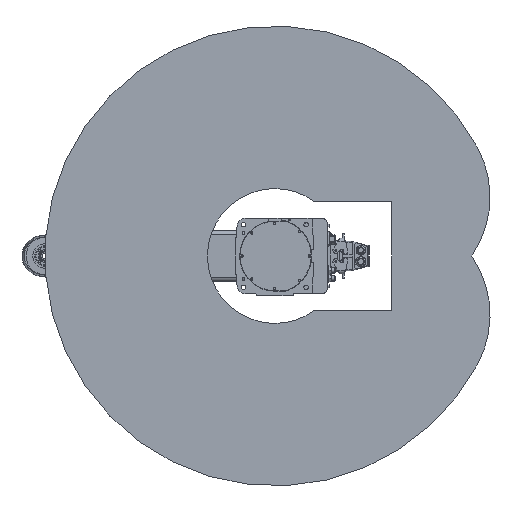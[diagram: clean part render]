
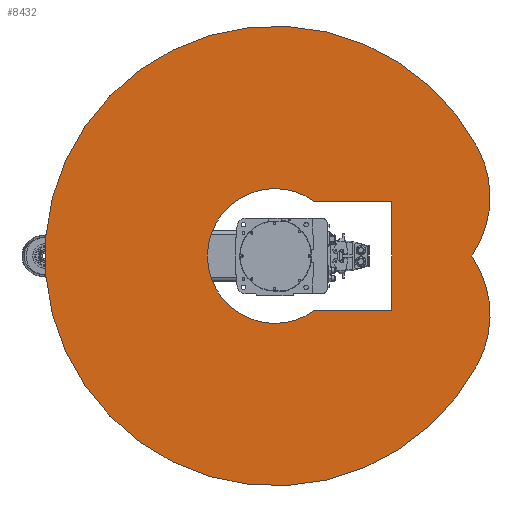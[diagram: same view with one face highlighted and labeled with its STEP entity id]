
A CAD part, front view. The second image highlights one B-rep face of the part: STEP entity #8432.
In plain terms, the highlighted planar face has unit normal (0, -1, 0).
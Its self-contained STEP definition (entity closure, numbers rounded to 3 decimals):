
#8432 = ADVANCED_FACE( '', ( #18431, #18432 ), #18433, .F. );
#18431 = FACE_OUTER_BOUND( '', #30071, .T. );
#18432 = FACE_BOUND( '', #30072, .T. );
#18433 = PLANE( '', #30073 );
#30071 = EDGE_LOOP( '', ( #52673, #52674, #52675 ) );
#30072 = EDGE_LOOP( '', ( #52676, #52677, #52678, #52679 ) );
#30073 = AXIS2_PLACEMENT_3D( '', #52680, #52681, #52682 );
#52673 = ORIENTED_EDGE( '', *, *, #65735, .F. );
#52674 = ORIENTED_EDGE( '', *, *, #61613, .F. );
#52675 = ORIENTED_EDGE( '', *, *, #67819, .F. );
#52676 = ORIENTED_EDGE( '', *, *, #59832, .T. );
#52677 = ORIENTED_EDGE( '', *, *, #67742, .T. );
#52678 = ORIENTED_EDGE( '', *, *, #67820, .T. );
#52679 = ORIENTED_EDGE( '', *, *, #67821, .T. );
#52680 = CARTESIAN_POINT( '', ( 70.421, 0., 132.442 ) );
#52681 = DIRECTION( '', ( 0., 1., 0. ) );
#52682 = DIRECTION( '', ( 0., 0., 1. ) );
#59832 = EDGE_CURVE( '', #70330, #70328, #70331, .T. );
#61613 = EDGE_CURVE( '', #73348, #73349, #73350, .T. );
#65735 = EDGE_CURVE( '', #73349, #79707, #79708, .T. );
#67742 = EDGE_CURVE( '', #70328, #82273, #82274, .T. );
#67819 = EDGE_CURVE( '', #79707, #73348, #82369, .T. );
#67820 = EDGE_CURVE( '', #82273, #82370, #82371, .T. );
#67821 = EDGE_CURVE( '', #82370, #70330, #82372, .T. );
#70328 = VERTEX_POINT( '', #85926 );
#70330 = VERTEX_POINT( '', #85929 );
#70331 = LINE( '', #85930, #85931 );
#73348 = VERTEX_POINT( '', #90652 );
#73349 = VERTEX_POINT( '', #90653 );
#73350 = CIRCLE( '', #90654, 250. );
#79707 = VERTEX_POINT( '', #101666 );
#79708 = CIRCLE( '', #101667, 250. );
#82273 = VERTEX_POINT( '', #106117 );
#82274 = LINE( '', #106118, #106119 );
#82369 = CIRCLE( '', #106283, 550. );
#82370 = VERTEX_POINT( '', #106284 );
#82371 = LINE( '', #106285, #106286 );
#82372 = CIRCLE( '', #106287, 161.22 );
#85926 = CARTESIAN_POINT( '', ( -130., 0., 280. ) );
#85929 = CARTESIAN_POINT( '', ( -130., 0., 95.351 ) );
#85930 = CARTESIAN_POINT( '', ( -130., 0., 0. ) );
#85931 = VECTOR( '', #109226, 1000. );
#90652 = CARTESIAN_POINT( '', ( -258.209, 0., 485.621 ) );
#90653 = CARTESIAN_POINT( '', ( 0., 0., 471.436 ) );
#90654 = AXIS2_PLACEMENT_3D( '', #111632, #111633, #111634 );
#101666 = CARTESIAN_POINT( '', ( 258.209, 0., 485.621 ) );
#101667 = AXIS2_PLACEMENT_3D( '', #116645, #116646, #116647 );
#106117 = CARTESIAN_POINT( '', ( 130., 0., 280. ) );
#106118 = CARTESIAN_POINT( '', ( -130., 0., 280. ) );
#106119 = VECTOR( '', #118602, 1000. );
#106283 = AXIS2_PLACEMENT_3D( '', #118649, #118650, #118651 );
#106284 = CARTESIAN_POINT( '', ( 130., 0., 95.351 ) );
#106285 = CARTESIAN_POINT( '', ( 130., 0., 280. ) );
#106286 = VECTOR( '', #118652, 1000. );
#106287 = AXIS2_PLACEMENT_3D( '', #118653, #118654, #118655 );
#109226 = DIRECTION( '', ( 0., 0., 1. ) );
#111632 = CARTESIAN_POINT( '', ( -140.841, 0., 264.884 ) );
#111633 = DIRECTION( '', ( 0., 1., 0. ) );
#111634 = DIRECTION( '', ( 1., 0., 0. ) );
#116645 = CARTESIAN_POINT( '', ( 140.841, 0., 264.884 ) );
#116646 = DIRECTION( '', ( 0., 1., 0. ) );
#116647 = DIRECTION( '', ( 1., 0., 0. ) );
#118602 = DIRECTION( '', ( 1., 0., 0. ) );
#118649 = CARTESIAN_POINT( '', ( 0., 0., 0. ) );
#118650 = DIRECTION( '', ( 0., 1., 0. ) );
#118651 = DIRECTION( '', ( 1., 0., 0. ) );
#118652 = DIRECTION( '', ( 0., 0., -1. ) );
#118653 = CARTESIAN_POINT( '', ( 0., 0., 0. ) );
#118654 = DIRECTION( '', ( 0., 1., 0. ) );
#118655 = DIRECTION( '', ( 1., 0., 0. ) );
